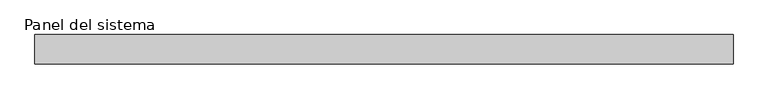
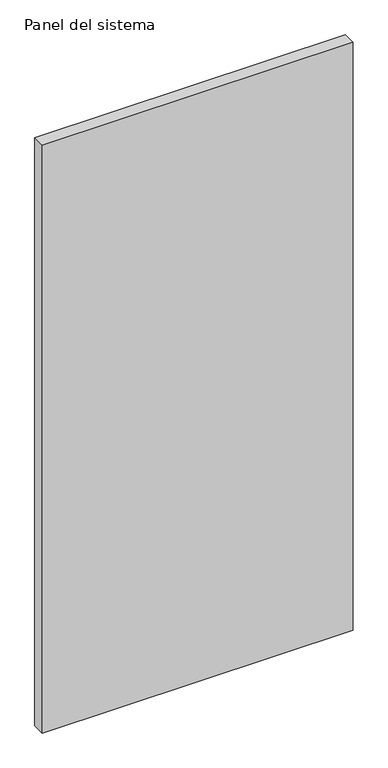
"""IFC4 building model written with IfcOpenShell, lengths in millimetres: plate geometry, Panel del sistema : HIANSA - CHAPA PERFILADA CUBIERTA - MT42 Vert."""

from ifc_helpers import new_model, si_unit, origin, origin_with_axes, place, context, project, spatial, polyline, outline, extrude, source, transform, mapped, element, save


def panel_del_sistema_b2de0735(model_context):
    return source(origin(), model_context, "Body", "SweptSolid", [
        extrude(outline(polyline([(500.0000002, -42.0), (-500.0000002, -42.0), (-500.0000002, 0.0), (500.0000002, 0.0), (500.0000002, -42.0)])), origin_with_axes(), (0.0, 0.0, 1.0), 2000.0),
    ])


if __name__ == "__main__":
    model = new_model("IFC4")
    model_context = context("Model", 3, world=origin())
    ifc_project = project(units=[si_unit("LENGTHUNIT", "METRE", prefix="MILLI")], contexts=[model_context])
    site = spatial("IfcSite", under=ifc_project)
    building = spatial("IfcBuilding", under=site)
    placement = place(None, origin())
    panel_del_sistema_shape = panel_del_sistema_b2de0735(model_context)
    element("IfcPlate", 1, ObjectType="Panel del sistema : HIANSA - CHAPA PERFILADA CUBIERTA - MT42 Vert", at=placement, inside=building, context=model_context, shape_type="MappedRepresentation", body=[
        mapped(panel_del_sistema_shape, transform((0.0, 0.0, 0.0), x_axis=(1.0, 0.0, 0.0), y_axis=(0.0, 1.0, 0.0), z_axis=(0.0, 0.0, 1.0))),
    ])
    save(model, "model.ifc")
